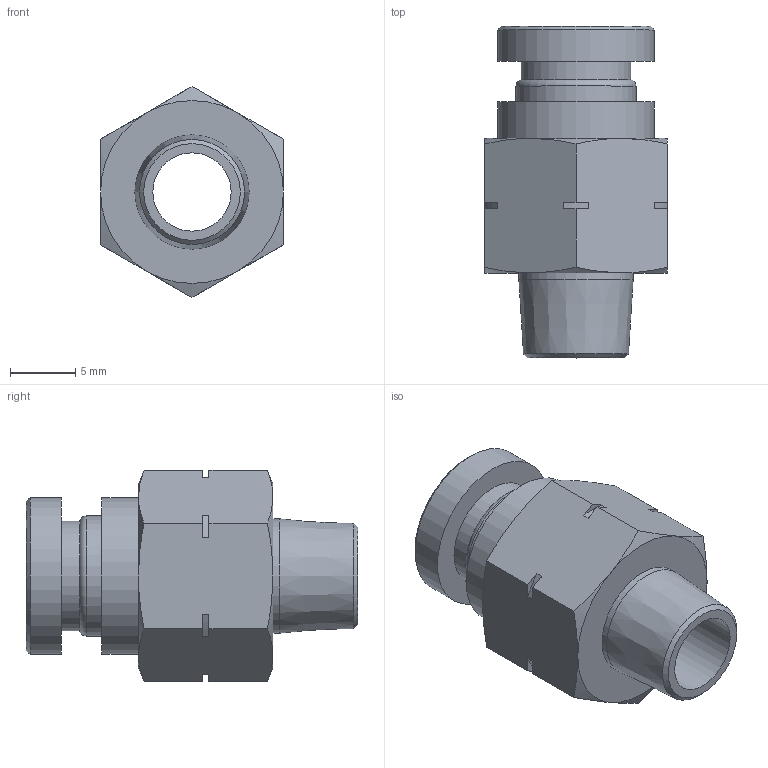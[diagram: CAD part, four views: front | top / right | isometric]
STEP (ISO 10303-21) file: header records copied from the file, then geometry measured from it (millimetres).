
FILE_DESCRIPTION(/* description */ (''),/* implementation_level */ '2;1');
FILE_NAME(/* name */ 'LXH11 0008 N1.stp',/* time_stamp */ '2026-04-19T14:44:56+02:00',/* author */ ('freju'),/* organization */ (''),/* preprocessor_version */ 'ST-DEVELOPER v20.1',/* originating_system */ 'Autodesk Inventor 2026',/* authorisation */ '');
FILE_SCHEMA (('AUTOMOTIVE_DESIGN { 1 0 10303 214 3 1 1 }'));
Length unit declared in the file: millimetre
Products named in the file (1): LXH11 0008 N1
Bounding box: 14 x 25.4 x 16.17 mm (x, y, z)
Volume: 1886.1 mm3; surface area: 1895.8 mm2
Topology: 1 solids, 1 shells, 54 faces, 126 edges, 79 vertices
Faces by surface type: plane 25, cone 15, cylinder 13, torus 1
Full cylindrical faces by diameter (mm): 6 x1, 8 x1, 8.4 x1, 8.751 x1, 9.2 x1, 12 x2
Entity records: 1557 total; most frequent: CARTESIAN_POINT 308, DIRECTION 256, ORIENTED_EDGE 252, EDGE_CURVE 126, AXIS2_PLACEMENT_3D 99, VERTEX_POINT 79, EDGE_LOOP 61, LINE 58
